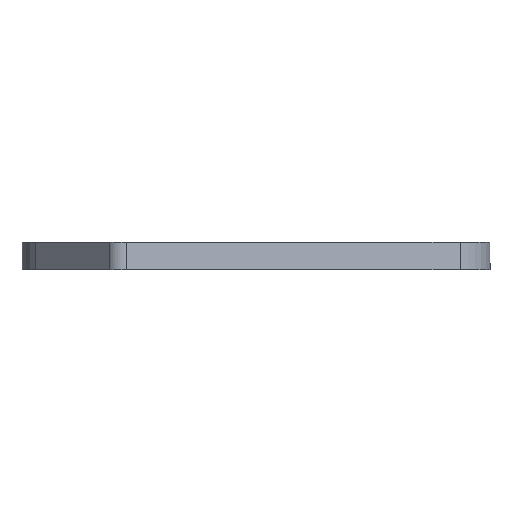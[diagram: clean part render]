
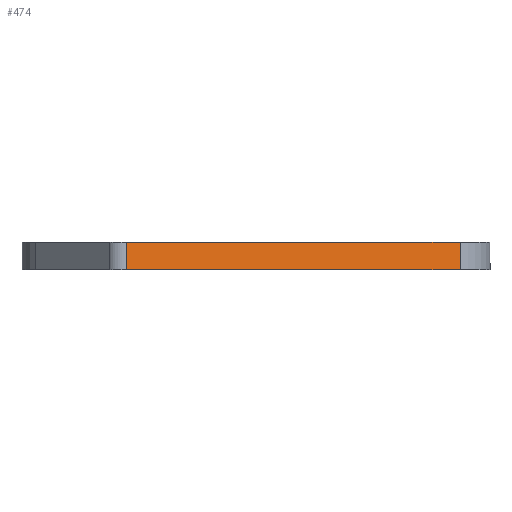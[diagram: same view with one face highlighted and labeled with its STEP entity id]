
A CAD part, left-side view. The second image highlights one B-rep face of the part: STEP entity #474.
In plain terms, the highlighted planar face has unit normal (-0.88, -0.476, 0).
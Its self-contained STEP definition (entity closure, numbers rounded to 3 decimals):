
#474=ADVANCED_FACE('',(#723),#2642,.T.);
#723=FACE_OUTER_BOUND('',#1099,.F.);
#1099=EDGE_LOOP('',(#1583,#1584,#1585,#1586));
#1583=ORIENTED_EDGE('',*,*,#4996,.T.);
#1584=ORIENTED_EDGE('',*,*,#5017,.F.);
#1585=ORIENTED_EDGE('',*,*,#5007,.F.);
#1586=ORIENTED_EDGE('',*,*,#5018,.T.);
#2642=PLANE('',#6541);
#4267=LINE('',#8928,#4543);
#4272=LINE('',#8939,#4548);
#4277=LINE('',#8949,#4553);
#4278=LINE('',#8950,#4554);
#4543=VECTOR('',#7206,165.617);
#4548=VECTOR('',#7223,165.617);
#4553=VECTOR('',#7238,12.);
#4554=VECTOR('',#7239,12.);
#4996=EDGE_CURVE('',#5964,#5966,#4267,.T.);
#5007=EDGE_CURVE('',#5954,#5955,#4272,.T.);
#5017=EDGE_CURVE('',#5955,#5966,#4277,.T.);
#5018=EDGE_CURVE('',#5954,#5964,#4278,.T.);
#5954=VERTEX_POINT('',#8494);
#5955=VERTEX_POINT('',#8495);
#5964=VERTEX_POINT('',#8504);
#5966=VERTEX_POINT('',#8506);
#6541=AXIS2_PLACEMENT_3D('',#9313,#7754,#7755);
#7206=DIRECTION('',(-0.476,0.88,0.));
#7223=DIRECTION('',(-0.476,0.88,0.));
#7238=DIRECTION('',(0.,0.,-1.));
#7239=DIRECTION('',(0.,0.,-1.));
#7754=DIRECTION('',(-0.88,-0.476,0.));
#7755=DIRECTION('',(-0.476,0.88,0.));
#8494=CARTESIAN_POINT('',(762.384,289.448,266.589));
#8495=CARTESIAN_POINT('',(683.605,435.129,266.589));
#8504=CARTESIAN_POINT('',(762.384,289.448,254.589));
#8506=CARTESIAN_POINT('',(683.605,435.129,254.589));
#8928=CARTESIAN_POINT('',(762.384,289.448,254.589));
#8939=CARTESIAN_POINT('',(762.384,289.448,266.589));
#8949=CARTESIAN_POINT('',(683.605,435.129,266.589));
#8950=CARTESIAN_POINT('',(762.384,289.448,266.589));
#9313=CARTESIAN_POINT('',(763.172,287.991,268.245));
